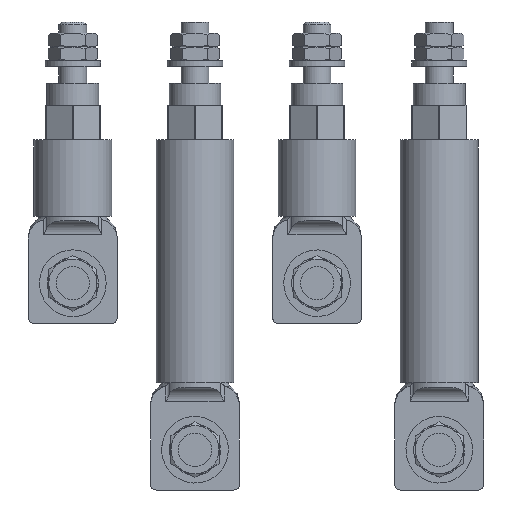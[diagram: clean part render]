
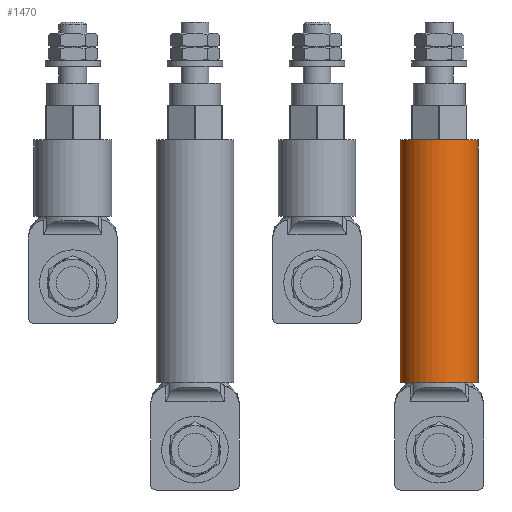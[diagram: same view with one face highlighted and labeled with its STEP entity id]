
A CAD part, left-side view. The second image highlights one B-rep face of the part: STEP entity #1470.
In plain terms, the highlighted cylindrical face has radius 14 mm (diameter 28 mm), a full revolution.
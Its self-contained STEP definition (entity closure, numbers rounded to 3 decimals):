
#693=CYLINDRICAL_SURFACE('',#8540,14.);
#817=FACE_BOUND('',#2697,.T.);
#818=FACE_BOUND('',#2698,.T.);
#1096=CIRCLE('',#8538,14.);
#1097=CIRCLE('',#8539,14.);
#1470=ADVANCED_FACE('',(#817,#818),#693,.T.);
#2697=EDGE_LOOP('',(#3436));
#2698=EDGE_LOOP('',(#3437));
#3436=ORIENTED_EDGE('',*,*,#6582,.T.);
#3437=ORIENTED_EDGE('',*,*,#6583,.F.);
#5796=VERTEX_POINT('',#11795);
#5797=VERTEX_POINT('',#11797);
#6582=EDGE_CURVE('',#5796,#5796,#1096,.T.);
#6583=EDGE_CURVE('',#5797,#5797,#1097,.T.);
#8538=AXIS2_PLACEMENT_3D('',#11794,#9530,#9531);
#8539=AXIS2_PLACEMENT_3D('',#11796,#9532,#9533);
#8540=AXIS2_PLACEMENT_3D('',#11798,#9534,#9535);
#9530=DIRECTION('',(0.,0.,1.));
#9531=DIRECTION('',(1.,0.001,0.));
#9532=DIRECTION('',(0.,0.,1.));
#9533=DIRECTION('',(1.,0.001,0.));
#9534=DIRECTION('',(0.,0.,1.));
#9535=DIRECTION('',(0.001,-1.,0.));
#11794=CARTESIAN_POINT('',(32.671,58.596,-82.07));
#11795=CARTESIAN_POINT('',(46.671,58.605,-82.07));
#11796=CARTESIAN_POINT('',(32.671,58.596,5.43));
#11797=CARTESIAN_POINT('',(46.671,58.605,5.43));
#11798=CARTESIAN_POINT('',(32.671,58.596,-82.07));
